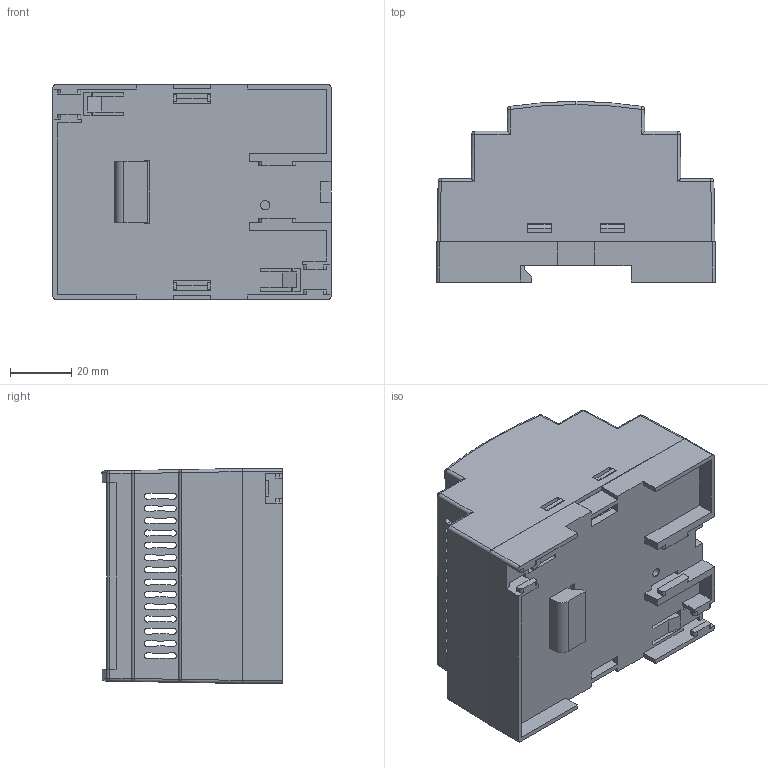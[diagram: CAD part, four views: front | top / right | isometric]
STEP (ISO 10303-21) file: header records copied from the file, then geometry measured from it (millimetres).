
FILE_DESCRIPTION (( 'STEP AP203' ), '1' );
FILE_NAME ('RT-204-B.STEP', '2018-08-29T11:35:09', ( '' ), ( '' ), 'SwSTEP 2.0', 'SolidWorks 2018', '' );
FILE_SCHEMA (( 'CONFIG_CONTROL_DESIGN' ));
Length unit declared in the file: millimetre
Products named in the file (4): base; Panel; cover_B; RT-204-B
Assembly tree (3 placements, depth 2):
  RT-204-B
    base
    cover_B
    Panel
Bounding box: 90.6 x 58.8 x 70.2 mm (x, y, z)
Volume: 54176.7 mm3; surface area: 61197.1 mm2
Topology: 3 solids, 3 shells, 683 faces, 1988 edges, 1302 vertices
Faces by surface type: cylinder 346, plane 322, sphere 12, bspline 3
Entity records: 22732 total; most frequent: CARTESIAN_POINT 5606, ORIENTED_EDGE 3960, DIRECTION 2989, EDGE_CURVE 1980, VERTEX_POINT 1302, LINE 1279, VECTOR 1279, AXIS2_PLACEMENT_3D 855
